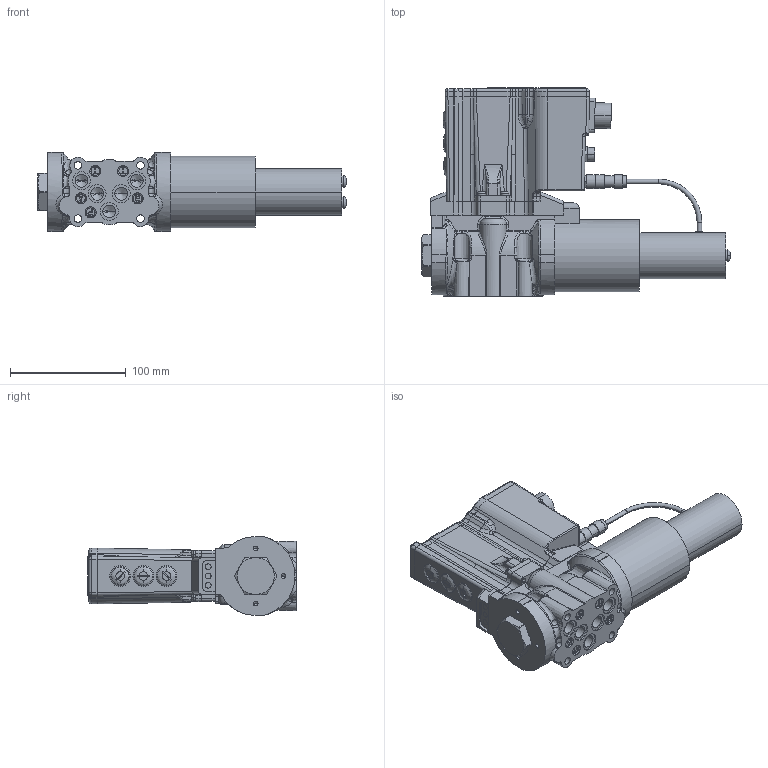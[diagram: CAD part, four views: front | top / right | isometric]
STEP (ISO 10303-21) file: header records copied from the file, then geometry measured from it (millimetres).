
FILE_DESCRIPTION((''),'2;1');
FILE_NAME('PRM9_102_E02S02_B_CAN_RD_ASM','2023-07-19T',('l.soukupova'),(''),'PRO/ENGINEER BY PARAMETRIC TECHNOLOGY CORPORATION, 2015440','PRO/ENGINEER BY PARAMETRIC TECHNOLOGY CORPORATION, 2015440','');
FILE_SCHEMA(('AUTOMOTIVE_DESIGN { 1 0 10303 214 1 1 1 1 }'));
Products named in the file (7): PRM9_102_B; C31A_EWX; 33055900_AF0; 1000226049; E02S02_CAN; SNIMAC_PRM9_NG10_WOUTC; PRM9_102_E02S02_B_CAN_RD_ASM
Assembly tree (6 placements, depth 2):
  PRM9_102_E02S02_B_CAN_RD_ASM
    PRM9_102_B
    C31A_EWX
    33055900_AF0
    1000226049
    E02S02_CAN
    SNIMAC_PRM9_NG10_WOUTC
Bounding box: 266 x 180 x 68.21 mm (x, y, z)
Volume: 883140.4 mm3; surface area: 184908.3 mm2
Topology: 6 solids, 24 shells, 1447 faces, 3708 edges, 2514 vertices
Faces by surface type: plane 537, cylinder 490, bspline 268, cone 82, torus 53, sphere 17
Entity records: 82682 total; most frequent: CARTESIAN_POINT 33814, ORIENTED_EDGE 6944, DIRECTION 6668, PRESENTATION_STYLE_ASSIGNMENT 4136, STYLED_ITEM 3928, CURVE_STYLE 3701, EDGE_CURVE 3498, AXIS2_PLACEMENT_3D 2444
